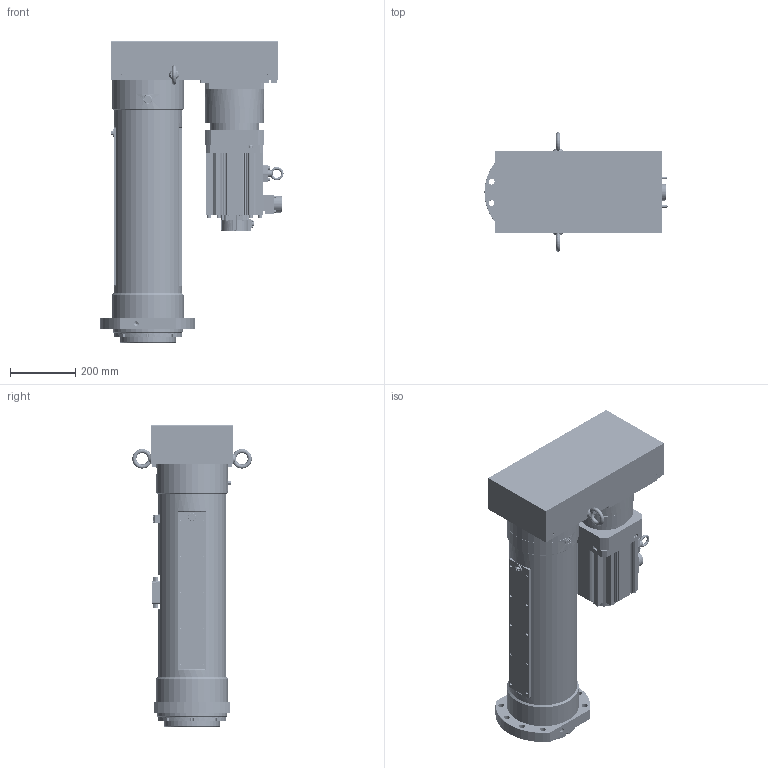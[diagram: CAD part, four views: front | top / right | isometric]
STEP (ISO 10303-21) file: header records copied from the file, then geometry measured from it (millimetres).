
FILE_DESCRIPTION( ('This file contains a STEP AP42 implementation' ,'as created by ZW3D STEP Interface translator.') ,'2;1' );
FILE_NAME( 'OACIS-DC-P150-400-200-A6-V20.51.stp' ,'26 5 4. 95133', (''), ('ZWCAD Software Co.'), 'Version 1.0', 'ZW3D to STEP translator', '' );
FILE_SCHEMA(('AUTOMOTIVE_DESIGN { 1 0 10303 214 1 1 1 1 }'));
Length unit declared in the file: millimetre
Products named in the file (1): 0
Bounding box: 559.83 x 365 x 920.5 mm (x, y, z)
Volume: 41736950.8 mm3; surface area: 4849987.9 mm2
Topology: 59 solids, 59 shells, 4271 faces, 11098 edges, 7242 vertices
Faces by surface type: plane 1792, cylinder 1690, cone 476, torus 147, bspline 124, sphere 42
Full cylindrical faces by diameter (mm): 1.567 x4, 3 x4, 3.3 x62, 4.2 x32, 4.3 x10, 4.5 x20, 4.917 x34, 5 x4, 5.5 x8, 5.8 x2, 6 x28, 6.5 x2, 6.647 x12, 6.8 x4, 7 x8, 7.2 x2, 7.24 x2, 7.8 x2, 8 x36, 8.4 x4, 8.5 x29, 8.8 x4, 9 x10, 10 x30, 10.106 x4, 10.2 x24, 11 x15, 12 x1, 13 x22, 13.5 x4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
Entity records: 156964 total; most frequent: CARTESIAN_POINT 42178, DIRECTION 23367, ORIENTED_EDGE 21994, EDGE_CURVE 10997, AXIS2_PLACEMENT_3D 8738, VERTEX_POINT 7239, VECTOR 5891, LINE 5891
